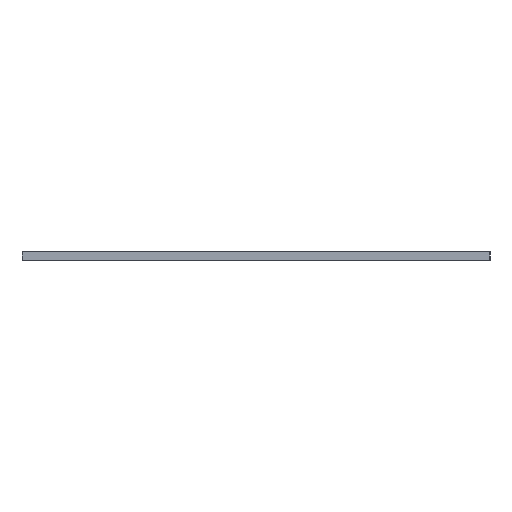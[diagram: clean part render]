
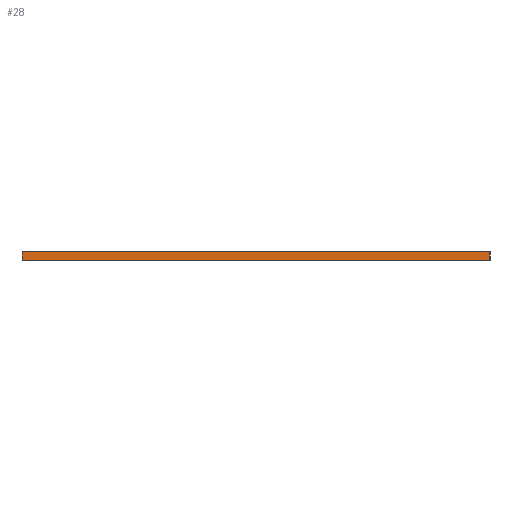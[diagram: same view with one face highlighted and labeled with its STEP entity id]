
A CAD part, left-side view. The second image highlights one B-rep face of the part: STEP entity #28.
In plain terms, the highlighted planar face has unit normal (-1, 0, 0).
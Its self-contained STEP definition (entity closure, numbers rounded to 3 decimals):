
#28 = ADVANCED_FACE('',(#29),#43,.T.);
#29 = FACE_BOUND('',#30,.T.);
#30 = EDGE_LOOP('',(#31,#66,#94,#122));
#31 = ORIENTED_EDGE('',*,*,#32,.T.);
#32 = EDGE_CURVE('',#33,#35,#37,.T.);
#33 = VERTEX_POINT('',#34);
#34 = CARTESIAN_POINT('',(84.5,-145.5,0.));
#35 = VERTEX_POINT('',#36);
#36 = CARTESIAN_POINT('',(84.5,-145.5,1.6));
#37 = SURFACE_CURVE('',#38,(#42,#54),.PCURVE_S1.);
#38 = LINE('',#39,#40);
#39 = CARTESIAN_POINT('',(84.5,-145.5,0.));
#40 = VECTOR('',#41,1.);
#41 = DIRECTION('',(0.,0.,1.));
#42 = PCURVE('',#43,#48);
#43 = PLANE('',#44);
#44 = AXIS2_PLACEMENT_3D('',#45,#46,#47);
#45 = CARTESIAN_POINT('',(84.5,-145.5,0.));
#46 = DIRECTION('',(-1.,0.,0.));
#47 = DIRECTION('',(0.,1.,0.));
#48 = DEFINITIONAL_REPRESENTATION('',(#49),#53);
#49 = LINE('',#50,#51);
#50 = CARTESIAN_POINT('',(0.,0.));
#51 = VECTOR('',#52,1.);
#52 = DIRECTION('',(0.,-1.));
#53 = ( GEOMETRIC_REPRESENTATION_CONTEXT(2) 
PARAMETRIC_REPRESENTATION_CONTEXT() REPRESENTATION_CONTEXT('2D SPACE',''
  ) );
#54 = PCURVE('',#55,#60);
#55 = PLANE('',#56);
#56 = AXIS2_PLACEMENT_3D('',#57,#58,#59);
#57 = CARTESIAN_POINT('',(181.5,-145.5,0.));
#58 = DIRECTION('',(0.,-1.,0.));
#59 = DIRECTION('',(-1.,0.,0.));
#60 = DEFINITIONAL_REPRESENTATION('',(#61),#65);
#61 = LINE('',#62,#63);
#62 = CARTESIAN_POINT('',(97.,0.));
#63 = VECTOR('',#64,1.);
#64 = DIRECTION('',(0.,-1.));
#65 = ( GEOMETRIC_REPRESENTATION_CONTEXT(2) 
PARAMETRIC_REPRESENTATION_CONTEXT() REPRESENTATION_CONTEXT('2D SPACE',''
  ) );
#66 = ORIENTED_EDGE('',*,*,#67,.T.);
#67 = EDGE_CURVE('',#35,#68,#70,.T.);
#68 = VERTEX_POINT('',#69);
#69 = CARTESIAN_POINT('',(84.5,-54.,1.6));
#70 = SURFACE_CURVE('',#71,(#75,#82),.PCURVE_S1.);
#71 = LINE('',#72,#73);
#72 = CARTESIAN_POINT('',(84.5,-145.5,1.6));
#73 = VECTOR('',#74,1.);
#74 = DIRECTION('',(0.,1.,0.));
#75 = PCURVE('',#43,#76);
#76 = DEFINITIONAL_REPRESENTATION('',(#77),#81);
#77 = LINE('',#78,#79);
#78 = CARTESIAN_POINT('',(0.,-1.6));
#79 = VECTOR('',#80,1.);
#80 = DIRECTION('',(1.,0.));
#81 = ( GEOMETRIC_REPRESENTATION_CONTEXT(2) 
PARAMETRIC_REPRESENTATION_CONTEXT() REPRESENTATION_CONTEXT('2D SPACE',''
  ) );
#82 = PCURVE('',#83,#88);
#83 = PLANE('',#84);
#84 = AXIS2_PLACEMENT_3D('',#85,#86,#87);
#85 = CARTESIAN_POINT('',(133.,-99.75,1.6));
#86 = DIRECTION('',(-0.,-0.,-1.));
#87 = DIRECTION('',(-1.,0.,0.));
#88 = DEFINITIONAL_REPRESENTATION('',(#89),#93);
#89 = LINE('',#90,#91);
#90 = CARTESIAN_POINT('',(48.5,-45.75));
#91 = VECTOR('',#92,1.);
#92 = DIRECTION('',(0.,1.));
#93 = ( GEOMETRIC_REPRESENTATION_CONTEXT(2) 
PARAMETRIC_REPRESENTATION_CONTEXT() REPRESENTATION_CONTEXT('2D SPACE',''
  ) );
#94 = ORIENTED_EDGE('',*,*,#95,.F.);
#95 = EDGE_CURVE('',#96,#68,#98,.T.);
#96 = VERTEX_POINT('',#97);
#97 = CARTESIAN_POINT('',(84.5,-54.,0.));
#98 = SURFACE_CURVE('',#99,(#103,#110),.PCURVE_S1.);
#99 = LINE('',#100,#101);
#100 = CARTESIAN_POINT('',(84.5,-54.,0.));
#101 = VECTOR('',#102,1.);
#102 = DIRECTION('',(0.,0.,1.));
#103 = PCURVE('',#43,#104);
#104 = DEFINITIONAL_REPRESENTATION('',(#105),#109);
#105 = LINE('',#106,#107);
#106 = CARTESIAN_POINT('',(91.5,0.));
#107 = VECTOR('',#108,1.);
#108 = DIRECTION('',(0.,-1.));
#109 = ( GEOMETRIC_REPRESENTATION_CONTEXT(2) 
PARAMETRIC_REPRESENTATION_CONTEXT() REPRESENTATION_CONTEXT('2D SPACE',''
  ) );
#110 = PCURVE('',#111,#116);
#111 = PLANE('',#112);
#112 = AXIS2_PLACEMENT_3D('',#113,#114,#115);
#113 = CARTESIAN_POINT('',(84.5,-54.,0.));
#114 = DIRECTION('',(0.,1.,0.));
#115 = DIRECTION('',(1.,0.,0.));
#116 = DEFINITIONAL_REPRESENTATION('',(#117),#121);
#117 = LINE('',#118,#119);
#118 = CARTESIAN_POINT('',(0.,0.));
#119 = VECTOR('',#120,1.);
#120 = DIRECTION('',(0.,-1.));
#121 = ( GEOMETRIC_REPRESENTATION_CONTEXT(2) 
PARAMETRIC_REPRESENTATION_CONTEXT() REPRESENTATION_CONTEXT('2D SPACE',''
  ) );
#122 = ORIENTED_EDGE('',*,*,#123,.F.);
#123 = EDGE_CURVE('',#33,#96,#124,.T.);
#124 = SURFACE_CURVE('',#125,(#129,#136),.PCURVE_S1.);
#125 = LINE('',#126,#127);
#126 = CARTESIAN_POINT('',(84.5,-145.5,0.));
#127 = VECTOR('',#128,1.);
#128 = DIRECTION('',(0.,1.,0.));
#129 = PCURVE('',#43,#130);
#130 = DEFINITIONAL_REPRESENTATION('',(#131),#135);
#131 = LINE('',#132,#133);
#132 = CARTESIAN_POINT('',(0.,0.));
#133 = VECTOR('',#134,1.);
#134 = DIRECTION('',(1.,0.));
#135 = ( GEOMETRIC_REPRESENTATION_CONTEXT(2) 
PARAMETRIC_REPRESENTATION_CONTEXT() REPRESENTATION_CONTEXT('2D SPACE',''
  ) );
#136 = PCURVE('',#137,#142);
#137 = PLANE('',#138);
#138 = AXIS2_PLACEMENT_3D('',#139,#140,#141);
#139 = CARTESIAN_POINT('',(133.,-99.75,0.));
#140 = DIRECTION('',(-0.,-0.,-1.));
#141 = DIRECTION('',(-1.,0.,0.));
#142 = DEFINITIONAL_REPRESENTATION('',(#143),#147);
#143 = LINE('',#144,#145);
#144 = CARTESIAN_POINT('',(48.5,-45.75));
#145 = VECTOR('',#146,1.);
#146 = DIRECTION('',(0.,1.));
#147 = ( GEOMETRIC_REPRESENTATION_CONTEXT(2) 
PARAMETRIC_REPRESENTATION_CONTEXT() REPRESENTATION_CONTEXT('2D SPACE',''
  ) );
